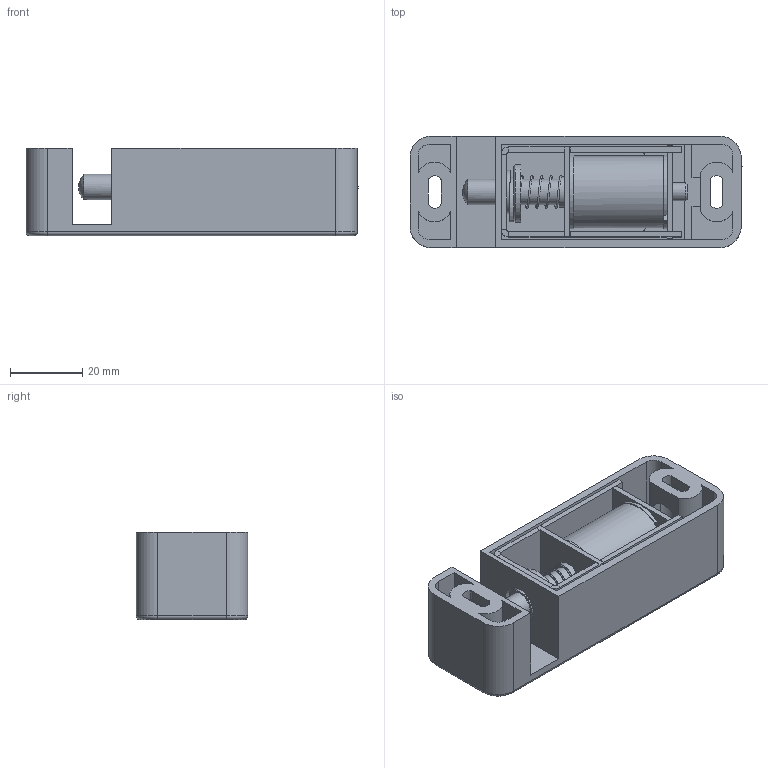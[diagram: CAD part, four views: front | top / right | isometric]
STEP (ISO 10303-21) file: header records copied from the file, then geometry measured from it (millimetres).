
FILE_DESCRIPTION(/* description */ (''),/* implementation_level */ '2;1');
FILE_NAME(/* name */ 'C:\Users\arch\Desktop\SM493.00-01;-02 СБ-Сборка НЗ (12 ;24v).stp',/* time_stamp */ '2025-03-20T15:16:40+03:00',/* author */ ('arch'),/* organization */ (''),/* preprocessor_version */ 'ST-DEVELOPER v18',/* originating_system */ 'Autodesk Inventor 2020',/* authorisation */ '');
FILE_SCHEMA (('AUTOMOTIVE_DESIGN { 1 0 10303 214 3 1 1 }'));
Length unit declared in the file: millimetre
Bounding box: 92.2 x 31 x 24.2 mm (x, y, z)
Volume: 34879.5 mm3; surface area: 30274.1 mm2
Topology: 1 solids, 2 shells, 296 faces, 891 edges, 572 vertices
Faces by surface type: plane 190, cylinder 81, cone 15, torus 6, bspline 3, sphere 1
Full cylindrical faces by diameter (mm): 2 x2, 2.2 x2, 4 x1, 5 x1, 5.1 x1, 7 x2, 8 x1, 8.3 x1, 9 x1, 11 x3, 12 x1, 14 x1, 15 x1, 16 x1, 20 x1, 20.5 x1
Entity records: 12797 total; most frequent: CARTESIAN_POINT 4201, ORIENTED_EDGE 1780, DIRECTION 1729, EDGE_CURVE 890, AXIS2_PLACEMENT_3D 579, VERTEX_POINT 572, LINE 571, VECTOR 571
